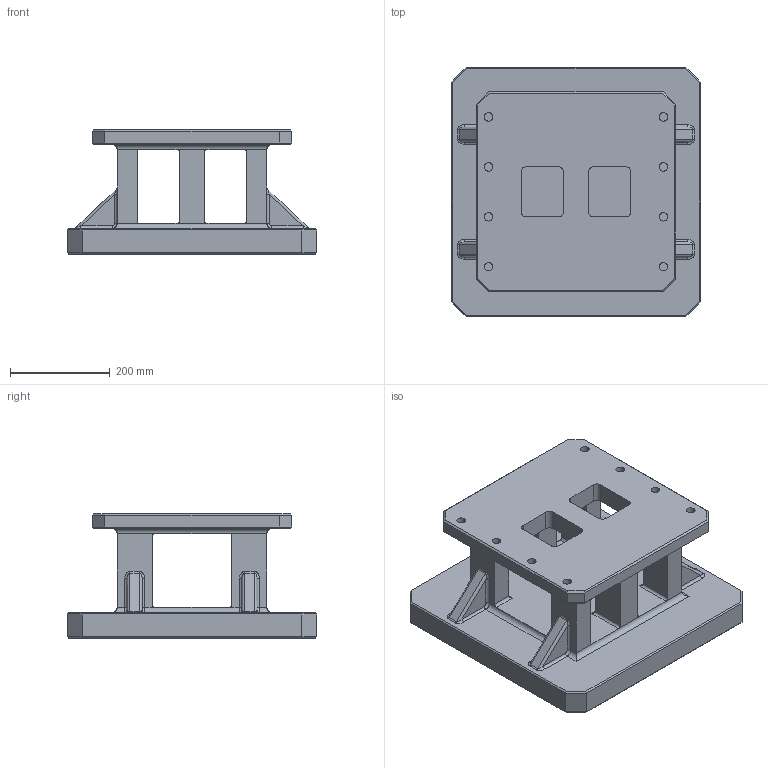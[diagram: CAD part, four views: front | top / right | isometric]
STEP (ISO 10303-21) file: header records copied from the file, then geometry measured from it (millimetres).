
FILE_DESCRIPTION((''),'2;1');
FILE_NAME('FG_WH_RISTL_RTGRDNP002','2026-05-27T15:04:17',('Admin'),(''),'CREO PARAMETRIC BY PTC INC, 2025010','CREO PARAMETRIC BY PTC INC, 2025010','');
FILE_SCHEMA(('CONFIG_CONTROL_DESIGN'));
Length unit declared in the file: millimetre
Products named in the file (1): FG_WH_RISTL_RTGRDNP002
Bounding box: 500 x 500 x 250 mm (x, y, z)
Volume: 21493781.5 mm3; surface area: 1357691.9 mm2
Topology: 1 solids, 82 shells, 1133 faces, 2536 edges, 1567 vertices
Faces by surface type: cylinder 598, plane 349, cone 162, bspline 24
Entity records: 31804 total; most frequent: CARTESIAN_POINT 6449, DIRECTION 5840, ORIENTED_EDGE 4586, AXIS2_PLACEMENT_3D 2412, EDGE_CURVE 2374, VERTEX_POINT 1567, EDGE_LOOP 1406, CIRCLE 1302
